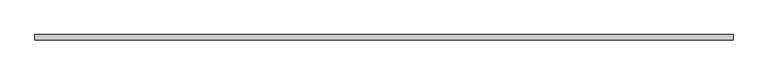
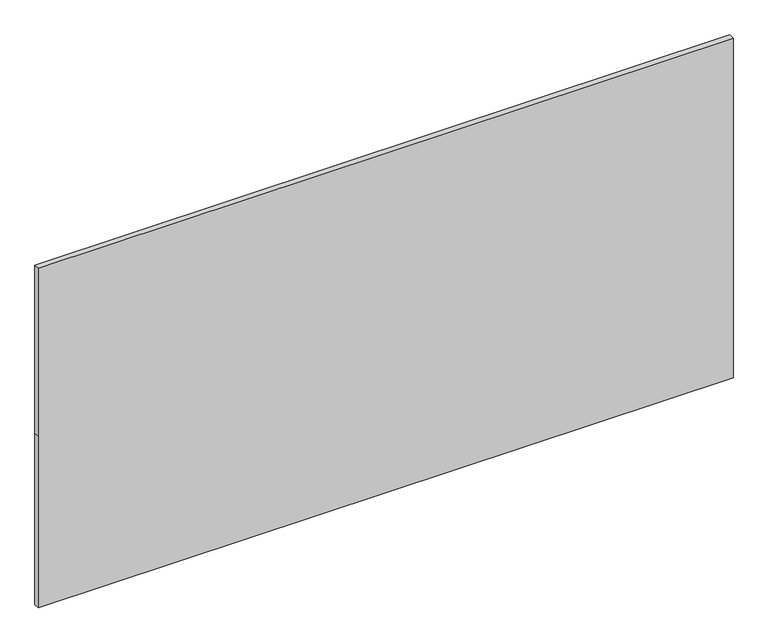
"""IFC4 building model written with IfcOpenShell, lengths in millimetres: plate geometry, Panneau système : Vitrages extérieur."""

from ifc_helpers import new_model, si_unit, frame, origin, place, context, project, spatial, polyline, outline, extrude, source, transform, mapped, element, save


def plate_f7b644e6(model_context):
    return source(origin(), model_context, "Body", "SweptSolid", [
        extrude(outline(polyline([(0.0, -1515.1048276), (0.0, 1515.1048276), (791.05362, 1515.1048276), (1566.05362, 1515.1048276), (1566.05362, -1515.1048276), (791.05362, -1515.1048276), (0.0, -1515.1048276)])), frame((0.0, -12.0, 0.0), z_axis=(0.0, 1.0, 0.0), x_axis=(0.0, 0.0, 1.0)), (0.0, 0.0, 1.0), 24.0),
    ])


if __name__ == "__main__":
    model = new_model("IFC4")
    model_context = context("Model", 3, world=origin())
    ifc_project = project(units=[si_unit("LENGTHUNIT", "METRE", prefix="MILLI")], contexts=[model_context])
    site = spatial("IfcSite", under=ifc_project)
    building = spatial("IfcBuilding", under=site)
    placement = place(None, origin())
    plate_shape = plate_f7b644e6(model_context)
    element("IfcPlate", 1, ObjectType="Panneau système : Vitrages extérieur", at=placement, inside=building, context=model_context, shape_type="MappedRepresentation", body=[
        mapped(plate_shape, transform((0.0, 0.0, 0.0), x_axis=(1.0, 0.0, 0.0), y_axis=(0.0, 1.0, 0.0), z_axis=(0.0, 0.0, 1.0))),
    ])
    save(model, "model.ifc")
